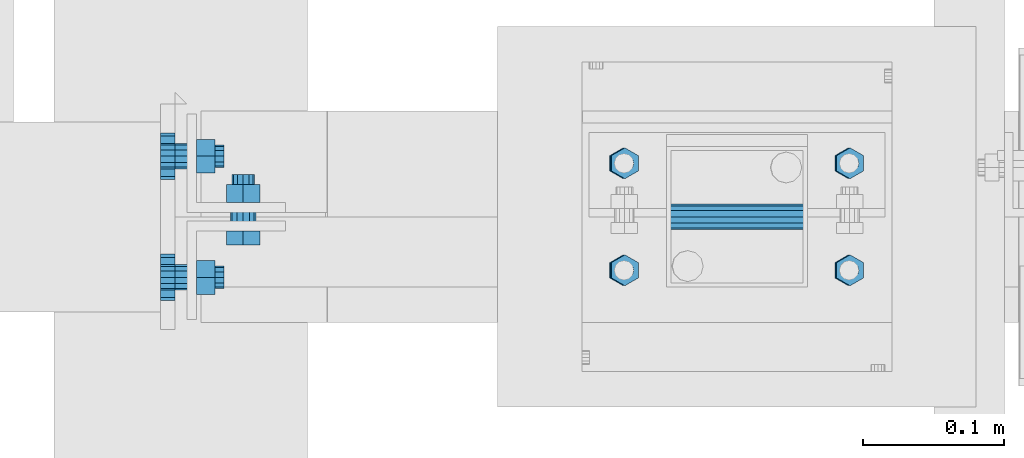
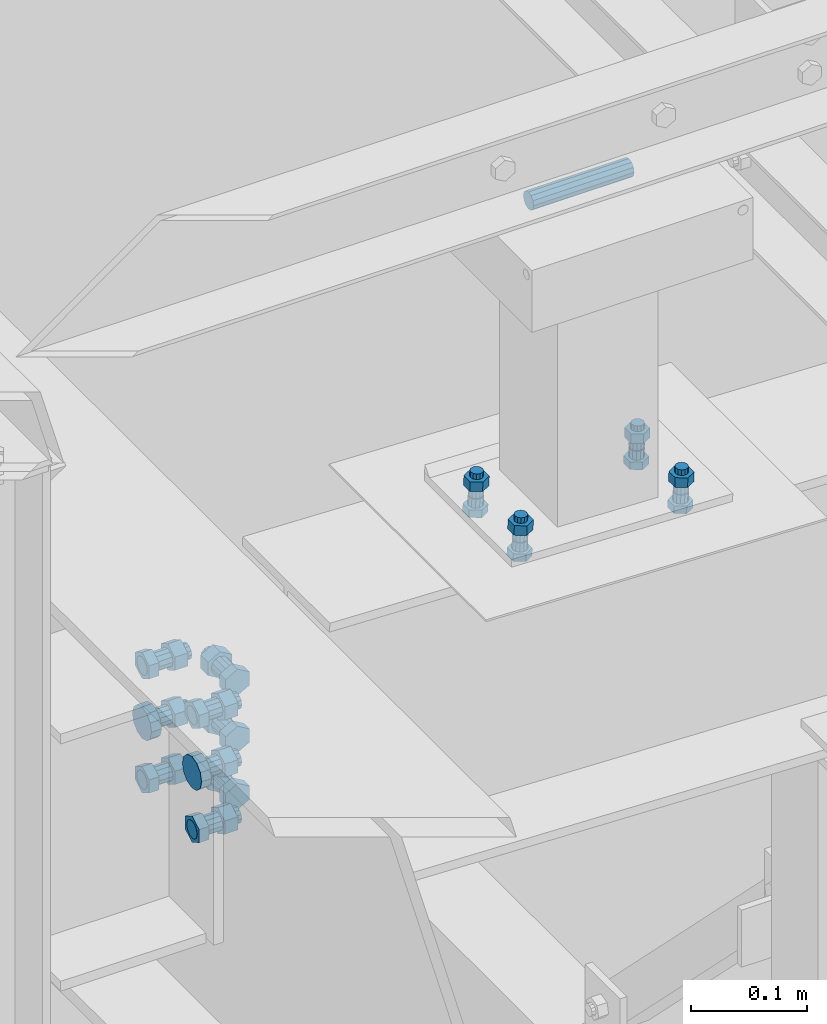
# One storey, part 161 of 3134: 8 mechanical fasteners, 4 elements without a shape of their own.
"""IFC2X3 building model written with IfcOpenShell, lengths in millimetres."""

from ifc_helpers import new_model, si_unit, frame, origin_with_axes, place, context, subcontext, project, spatial, faceted_brep, source, transform, mapped, material, type_object, element, aggregate, save


model = new_model("IFC2X3")

# Units and contexts
model_context = context("Model", 3, precision=1e-05, world=origin_with_axes())
body_context = subcontext(model_context, "Body", "Model", "MODEL_VIEW")
ifc_project = project(units=[si_unit("LENGTHUNIT", "METRE", prefix="MILLI"), si_unit("AREAUNIT", "SQUARE_METRE"), si_unit("VOLUMEUNIT", "CUBIC_METRE"), si_unit("MASSUNIT", "GRAM", prefix="KILO"), si_unit("TIMEUNIT", "SECOND"), si_unit("PLANEANGLEUNIT", "RADIAN"), si_unit("SOLIDANGLEUNIT", "STERADIAN"), si_unit("THERMODYNAMICTEMPERATUREUNIT", "DEGREE_CELSIUS"), si_unit("LUMINOUSINTENSITYUNIT", "LUMEN")], contexts=[model_context])

# Site, building, storey
site_placement = place(None, origin_with_axes())
site = spatial("IfcSite", under=ifc_project, at=site_placement, CompositionType="ELEMENT")
building_placement = place(site_placement, origin_with_axes())
building = spatial("IfcBuilding", under=site, at=building_placement, Name="Undefined", CompositionType="ELEMENT")
storey_placement = place(building_placement, origin_with_axes())
storey = spatial("IfcBuildingStorey", under=building, at=storey_placement, Name="Undefined", CompositionType="ELEMENT", Elevation=0.0)

# Assembly, mechanical fasteners
assembly_1_placement = place(storey_placement, origin_with_axes())
assembly_1 = element("IfcElementAssembly", 1, at=assembly_1_placement, inside=storey, Name="HEA100", AssemblyPlace="NOTDEFINED", PredefinedType="RIGID_FRAME")
ifc_material = material(Name="8.8")
mechanical_fastener_type = type_object("IfcMechanicalFastenerType", Name="Bolt assembly")
shared_shape_1 = source(origin_with_axes(), body_context, "Body", "Brep", [
    faceted_brep([(16.5, 4.3, 0.0), (14.289419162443, 4.3, 8.25000000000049), (8.24999999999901, 4.3, 14.2894191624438), (-1.70995436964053e-12, 4.3, 16.5), (-8.25000000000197, 4.3, 14.2894191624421), (-14.2894191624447, 4.3, 8.24999999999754), (-16.5, 4.3, -3.41990873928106e-12), (-14.2894191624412, 4.3, -8.25000000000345), (-8.24999999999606, 4.3, -14.2894191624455), (5.11154442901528e-12, 4.3, -16.5), (8.25000000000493, 4.3, -14.2894191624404), (14.2894191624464, 4.3, -8.24999999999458), (14.2894191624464, 14.4, -8.24999999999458), (8.25000000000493, 14.4, -14.2894191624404), (5.11154442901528e-12, 14.4, -16.5), (-8.24999999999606, 14.4, -14.2894191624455), (-14.2894191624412, 14.4, -8.25000000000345), (-16.5, 14.4, -3.41990873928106e-12), (-14.2894191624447, 14.4, 8.24999999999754), (-8.25000000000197, 14.4, 14.2894191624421), (-1.70995436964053e-12, 14.4, 16.5), (8.24999999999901, 14.4, 14.2894191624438), (14.289419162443, 14.4, 8.25000000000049), (16.5, 14.4, 0.0)], [[[0, 1, 2, 3, 4, 5, 6, 7, 8, 9, 10, 11]], [[12, 13, 14, 15, 16, 17, 18, 19, 20, 21, 22, 23]], [[0, 23, 22, 1]], [[1, 22, 21, 2]], [[2, 21, 20, 3]], [[3, 20, 19, 4]], [[4, 19, 18, 5]], [[5, 18, 17, 6]], [[6, 17, 16, 7]], [[7, 16, 15, 8]], [[8, 15, 14, 9]], [[9, 14, 13, 10]], [[10, 13, 12, 11]], [[11, 12, 23, 0]]]),
])
mechanical_fastener_1_placement = place(assembly_1_placement, frame((0.0, 32243.75, 3901.86680927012), z_axis=(0.0, 1.0, 0.0), x_axis=(0.0, 0.0, -1.0)))
mechanical_fastener_1 = element("IfcMechanicalFastener", 2, at=mechanical_fastener_1_placement, type_object=mechanical_fastener_type, material=ifc_material, Name="Bolt assembly", NominalDiameter=30.0, NominalLength=10.0, context=body_context, shape_type="MappedRepresentation", body=[
    mapped(shared_shape_1, transform((0.0, 0.0, -43.0400009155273))),
    mapped(shared_shape_1, transform((0.0, 0.0, 43.0400009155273))),
])
shared_shape_2 = source(origin_with_axes(), body_context, "Body", "Brep", [
    faceted_brep([(9.0, 4.3, 0.0), (7.79422863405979, 4.3, 4.50000000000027), (4.49999999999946, 4.3, 7.79422863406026), (-9.3270238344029e-13, 4.3, 9.0), (-4.50000000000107, 4.3, 7.79422863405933), (-7.79422863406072, 4.3, 4.49999999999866), (-9.0, 4.3, -1.86540476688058e-12), (-7.79422863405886, 4.3, -4.50000000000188), (-4.49999999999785, 4.3, -7.79422863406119), (2.78811514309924e-12, 4.3, -9.0), (4.50000000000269, 4.3, -7.7942286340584), (7.79422863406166, 4.3, -4.49999999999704), (7.79422863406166, 14.4, -4.49999999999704), (4.50000000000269, 14.4, -7.7942286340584), (2.78811514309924e-12, 14.4, -9.0), (-4.49999999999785, 14.4, -7.79422863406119), (-7.79422863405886, 14.4, -4.50000000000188), (-9.0, 14.4, -1.86540476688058e-12), (-7.79422863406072, 14.4, 4.49999999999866), (-4.50000000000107, 14.4, 7.79422863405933), (-9.3270238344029e-13, 14.4, 9.0), (4.49999999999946, 14.4, 7.79422863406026), (7.79422863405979, 14.4, 4.50000000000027), (9.0, 14.4, 0.0)], [[[0, 1, 2, 3, 4, 5, 6, 7, 8, 9, 10, 11]], [[12, 13, 14, 15, 16, 17, 18, 19, 20, 21, 22, 23]], [[0, 23, 22, 1]], [[1, 22, 21, 2]], [[2, 21, 20, 3]], [[3, 20, 19, 4]], [[4, 19, 18, 5]], [[5, 18, 17, 6]], [[6, 17, 16, 7]], [[7, 16, 15, 8]], [[8, 15, 14, 9]], [[9, 14, 13, 10]], [[10, 13, 12, 11]], [[11, 12, 23, 0]]]),
])
mechanical_fastener_2_placement = place(assembly_1_placement, frame((0.0, 32286.79, 3961.86727512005), z_axis=(0.0, 1.0, 0.0), x_axis=(0.0, 0.0, -1.0)))
mechanical_fastener_2 = element("IfcMechanicalFastener", 3, at=mechanical_fastener_2_placement, type_object=mechanical_fastener_type, material=ifc_material, Name="Bolt assembly", NominalDiameter=16.0, NominalLength=10.0, context=body_context, shape_type="MappedRepresentation", body=[
    mapped(shared_shape_2, transform((0.0, 0.0, 0.0))),
    mapped(shared_shape_2, transform((120.0, 0.0, 0.0))),
])
mechanical_fastener_3_placement = place(assembly_1_placement, frame((0.0, 32200.71, 3961.86727512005), z_axis=(0.0, 1.0, 0.0), x_axis=(0.0, 0.0, -1.0)))
mechanical_fastener_3 = element("IfcMechanicalFastener", 4, at=mechanical_fastener_3_placement, type_object=mechanical_fastener_type, material=ifc_material, Name="Bolt assembly", NominalDiameter=16.0, NominalLength=10.0, context=body_context, shape_type="MappedRepresentation", body=[
    mapped(shared_shape_2, transform((0.0, 0.0, 0.0))),
    mapped(shared_shape_2, transform((120.0, 0.0, 0.0))),
])
aggregate(assembly_1, [mechanical_fastener_2, mechanical_fastener_3, mechanical_fastener_1])

# Assembly, mechanical fastener
assembly_2_placement = place(storey_placement, origin_with_axes())
assembly_2 = element("IfcElementAssembly", 5, at=assembly_2_placement, inside=storey, AssemblyPlace="NOTDEFINED", PredefinedType="RIGID_FRAME")
shared_shape_3 = source(origin_with_axes(), body_context, "Body", "Brep", [
    faceted_brep([(13.856406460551, -18.5936482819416, 0.0), (6.92820323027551, -18.5936482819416, 12.0), (-6.92820323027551, -18.5936482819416, 12.0), (-13.856406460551, -18.5936482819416, 1.69692038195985e-15), (-6.92820323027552, -18.5936482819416, -12.0), (6.9282032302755, -18.5936482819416, -12.0), (6.9282032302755, -8.59364828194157, -12.0), (-6.92820323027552, -8.59364828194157, -12.0), (-13.856406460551, -8.59364828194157, 1.69692038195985e-15), (-6.92820323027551, -8.59364828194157, 12.0), (6.92820323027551, -8.59364828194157, 12.0), (13.856406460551, -8.59364828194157, 0.0), (8.0, -8.59364828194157, 0.0), (6.92820323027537, -8.59364828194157, 4.00000000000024), (3.99999999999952, -8.59364828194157, 6.92820323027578), (-8.29068785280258e-13, -8.59364828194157, 8.0), (-4.00000000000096, -8.59364828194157, 6.92820323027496), (-6.9282032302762, -8.59364828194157, 3.99999999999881), (-8.0, -8.59364828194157, -1.65813757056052e-12), (-6.92820323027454, -8.59364828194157, -4.00000000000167), (-3.99999999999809, -8.59364828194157, -6.92820323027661), (2.47832457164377e-12, -8.59364828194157, -8.0), (4.00000000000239, -8.59364828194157, -6.92820323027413), (6.92820323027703, -8.59364828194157, -3.99999999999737), (6.92820323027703, 26.4063517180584, -3.99999999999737), (4.00000000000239, 26.4063517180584, -6.92820323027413), (2.47832457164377e-12, 26.4063517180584, -8.0), (-3.99999999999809, 26.4063517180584, -6.92820323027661), (-6.92820323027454, 26.4063517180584, -4.00000000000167), (-8.0, 26.4063517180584, -1.65813757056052e-12), (-6.9282032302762, 26.4063517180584, 3.99999999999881), (-4.00000000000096, 26.4063517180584, 6.92820323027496), (-8.29068785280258e-13, 26.4063517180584, 8.0), (3.99999999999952, 26.4063517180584, 6.92820323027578), (6.92820323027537, 26.4063517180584, 4.00000000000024), (8.0, 26.4063517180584, 0.0), (13.856406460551, 7.0, 0.0), (6.92820323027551, 7.0, 12.0), (-6.92820323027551, 7.0, 12.0), (-13.856406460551, 7.0, 1.69692038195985e-15), (-6.92820323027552, 7.0, -12.0), (6.9282032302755, 7.0, -12.0), (6.9282032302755, 20.0, -12.0), (-6.92820323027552, 20.0, -12.0), (-13.856406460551, 20.0, 1.69692038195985e-15), (-6.92820323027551, 20.0, 12.0), (6.92820323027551, 20.0, 12.0), (13.856406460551, 20.0, 0.0)], [[[0, 1, 2, 3, 4, 5]], [[6, 7, 8, 9, 10, 11]], [[0, 11, 10, 1]], [[1, 10, 9, 2]], [[2, 9, 8, 3]], [[3, 8, 7, 4]], [[4, 7, 6, 5]], [[5, 6, 11, 0]], [[12, 13, 14, 15, 16, 17, 18, 19, 20, 21, 22, 23]], [[24, 25, 26, 27, 28, 29, 30, 31, 32, 33, 34, 35]], [[12, 35, 34, 13]], [[13, 34, 33, 14]], [[14, 33, 32, 15]], [[15, 32, 31, 16]], [[16, 31, 30, 17]], [[17, 30, 29, 18]], [[18, 29, 28, 19]], [[19, 28, 27, 20]], [[20, 27, 26, 21]], [[21, 26, 25, 22]], [[22, 25, 24, 23]], [[23, 24, 35, 12]], [[36, 37, 38, 39, 40, 41]], [[42, 43, 44, 45, 46, 47]], [[36, 47, 46, 37]], [[37, 46, 45, 38]], [[38, 45, 44, 39]], [[39, 44, 43, 40]], [[40, 43, 42, 41]], [[41, 42, 47, 36]]]),
    faceted_brep([(9.0, -8.49364828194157, 0.0), (7.79422863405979, -8.49364828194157, 4.50000000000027), (4.49999999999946, -8.49364828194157, 7.79422863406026), (-9.3270238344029e-13, -8.49364828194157, 9.0), (-4.50000000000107, -8.49364828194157, 7.79422863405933), (-7.79422863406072, -8.49364828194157, 4.49999999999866), (-9.0, -8.49364828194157, -1.86540476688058e-12), (-7.79422863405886, -8.49364828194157, -4.50000000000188), (-4.49999999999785, -8.49364828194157, -7.79422863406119), (2.78811514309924e-12, -8.49364828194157, -9.0), (4.50000000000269, -8.49364828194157, -7.7942286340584), (7.79422863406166, -8.49364828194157, -4.49999999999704), (7.79422863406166, 0.10635209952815, -4.49999999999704), (4.50000000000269, 0.10635209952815, -7.7942286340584), (2.78811514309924e-12, 0.10635209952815, -9.0), (-4.49999999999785, 0.10635209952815, -7.79422863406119), (-7.79422863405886, 0.10635209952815, -4.50000000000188), (-9.0, 0.10635209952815, -1.86540476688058e-12), (-7.79422863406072, 0.10635209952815, 4.49999999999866), (-4.50000000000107, 0.10635209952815, 7.79422863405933), (-9.3270238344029e-13, 0.10635209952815, 9.0), (4.49999999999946, 0.10635209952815, 7.79422863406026), (7.79422863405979, 0.10635209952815, 4.50000000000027), (9.0, 0.10635209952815, 0.0), (9.0, -0.1, 0.0), (7.79422863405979, -0.1, 4.50000000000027), (4.49999999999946, -0.1, 7.79422863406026), (-9.3270238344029e-13, -0.1, 9.0), (-4.50000000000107, -0.1, 7.79422863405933), (-7.79422863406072, -0.1, 4.49999999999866), (-9.0, -0.1, -1.86540476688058e-12), (-7.79422863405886, -0.1, -4.50000000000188), (-4.49999999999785, -0.1, -7.79422863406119), (2.78811514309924e-12, -0.1, -9.0), (4.50000000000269, -0.1, -7.7942286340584), (7.79422863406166, -0.1, -4.49999999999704), (7.79422863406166, 7.0, -4.49999999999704), (4.50000000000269, 7.0, -7.7942286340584), (2.78811514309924e-12, 7.0, -9.0), (-4.49999999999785, 7.0, -7.79422863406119), (-7.79422863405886, 7.0, -4.50000000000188), (-9.0, 7.0, -1.86540476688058e-12), (-7.79422863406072, 7.0, 4.49999999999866), (-4.50000000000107, 7.0, 7.79422863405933), (-9.3270238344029e-13, 7.0, 9.0), (4.49999999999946, 7.0, 7.79422863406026), (7.79422863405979, 7.0, 4.50000000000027), (9.0, 7.0, 0.0)], [[[0, 1, 2, 3, 4, 5, 6, 7, 8, 9, 10, 11]], [[12, 13, 14, 15, 16, 17, 18, 19, 20, 21, 22, 23]], [[0, 23, 22, 1]], [[1, 22, 21, 2]], [[2, 21, 20, 3]], [[3, 20, 19, 4]], [[4, 19, 18, 5]], [[5, 18, 17, 6]], [[6, 17, 16, 7]], [[7, 16, 15, 8]], [[8, 15, 14, 9]], [[9, 14, 13, 10]], [[10, 13, 12, 11]], [[11, 12, 23, 0]], [[24, 25, 26, 27, 28, 29, 30, 31, 32, 33, 34, 35]], [[36, 37, 38, 39, 40, 41, 42, 43, 44, 45, 46, 47]], [[24, 47, 46, 25]], [[25, 46, 45, 26]], [[26, 45, 44, 27]], [[27, 44, 43, 28]], [[28, 43, 42, 29]], [[29, 42, 41, 30]], [[30, 41, 40, 31]], [[31, 40, 39, 32]], [[32, 39, 38, 33]], [[33, 38, 37, 34]], [[34, 37, 36, 35]], [[35, 36, 47, 24]]]),
])
mechanical_fastener_4_placement = place(assembly_2_placement, frame((4.29364809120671, 32200.71, 3841.86727512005), z_axis=(0.0, 1.0, 0.0), x_axis=(0.0, 0.0, 1.0)))
mechanical_fastener_4 = element("IfcMechanicalFastener", 6, at=mechanical_fastener_4_placement, type_object=mechanical_fastener_type, material=ifc_material, Name="Bolt assembly", NominalDiameter=16.0, NominalLength=35.0, context=body_context, shape_type="MappedRepresentation", body=[
    mapped(shared_shape_3, transform((0.0, 0.0, 0.0))),
    mapped(shared_shape_3, transform((59.9999999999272, 0.0, 5.40239852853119e-10))),
    mapped(shared_shape_3, transform((120.0, 0.0, 0.0))),
])

assembly_3_placement = place(storey_placement, origin_with_axes())
assembly_3 = element("IfcElementAssembly", 7, at=assembly_3_placement, inside=storey, AssemblyPlace="NOTDEFINED", PredefinedType="RIGID_FRAME")
mechanical_fastener_5_placement = place(assembly_3_placement, frame((4.29364809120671, 32286.79, 3841.86727512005), z_axis=(0.0, 1.0, 0.0), x_axis=(0.0, 0.0, 1.0)))
mechanical_fastener_5 = element("IfcMechanicalFastener", 8, at=mechanical_fastener_5_placement, type_object=mechanical_fastener_type, material=ifc_material, Name="Bolt assembly", NominalDiameter=16.0, NominalLength=35.0, context=body_context, shape_type="MappedRepresentation", body=[
    mapped(shared_shape_3, transform((0.0, 0.0, 0.0))),
    mapped(shared_shape_3, transform((59.9999999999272, 0.0, 5.40239852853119e-10))),
    mapped(shared_shape_3, transform((120.0, 0.0, 0.0))),
])
aggregate(assembly_3, [mechanical_fastener_5])

# Mechanical fastener
shared_shape_4 = source(origin_with_axes(), body_context, "Body", "Brep", [
    faceted_brep([(13.856406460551, -20.0400000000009, 0.0), (6.92820323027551, -20.0400000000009, 12.0), (-6.92820323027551, -20.0400000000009, 12.0), (-13.856406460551, -20.0400000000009, 1.69692038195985e-15), (-6.92820323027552, -20.0400000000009, -12.0), (6.9282032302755, -20.0400000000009, -12.0), (6.9282032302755, -10.0400000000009, -12.0), (-6.92820323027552, -10.0400000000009, -12.0), (-13.856406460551, -10.0400000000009, 1.69692038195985e-15), (-6.92820323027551, -10.0400000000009, 12.0), (6.92820323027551, -10.0400000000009, 12.0), (13.856406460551, -10.0400000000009, 0.0), (8.0, -10.0400000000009, 0.0), (6.92820323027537, -10.0400000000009, 4.00000000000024), (3.99999999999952, -10.0400000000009, 6.92820323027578), (-8.29068785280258e-13, -10.0400000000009, 8.0), (-4.00000000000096, -10.0400000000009, 6.92820323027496), (-6.9282032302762, -10.0400000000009, 3.99999999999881), (-8.0, -10.0400000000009, -1.65813757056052e-12), (-6.92820323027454, -10.0400000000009, -4.00000000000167), (-3.99999999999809, -10.0400000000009, -6.92820323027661), (2.47832457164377e-12, -10.0400000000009, -8.0), (4.00000000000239, -10.0400000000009, -6.92820323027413), (6.92820323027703, -10.0400000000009, -3.99999999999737), (6.92820323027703, 29.9599999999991, -3.99999999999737), (4.00000000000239, 29.9599999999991, -6.92820323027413), (2.47832457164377e-12, 29.9599999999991, -8.0), (-3.99999999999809, 29.9599999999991, -6.92820323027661), (-6.92820323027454, 29.9599999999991, -4.00000000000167), (-8.0, 29.9599999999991, -1.65813757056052e-12), (-6.9282032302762, 29.9599999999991, 3.99999999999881), (-4.00000000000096, 29.9599999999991, 6.92820323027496), (-8.29068785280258e-13, 29.9599999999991, 8.0), (3.99999999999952, 29.9599999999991, 6.92820323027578), (6.92820323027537, 29.9599999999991, 4.00000000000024), (8.0, 29.9599999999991, 0.0), (13.856406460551, 10.0400000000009, 0.0), (6.92820323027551, 10.0400000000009, 12.0), (-6.92820323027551, 10.0400000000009, 12.0), (-13.856406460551, 10.0400000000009, 1.69692038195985e-15), (-6.92820323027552, 10.0400000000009, -12.0), (6.9282032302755, 10.0400000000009, -12.0), (6.9282032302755, 23.0400000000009, -12.0), (-6.92820323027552, 23.0400000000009, -12.0), (-13.856406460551, 23.0400000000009, 1.69692038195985e-15), (-6.92820323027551, 23.0400000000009, 12.0), (6.92820323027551, 23.0400000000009, 12.0), (13.856406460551, 23.0400000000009, 0.0)], [[[0, 1, 2, 3, 4, 5]], [[6, 7, 8, 9, 10, 11]], [[0, 11, 10, 1]], [[1, 10, 9, 2]], [[2, 9, 8, 3]], [[3, 8, 7, 4]], [[4, 7, 6, 5]], [[5, 6, 11, 0]], [[12, 13, 14, 15, 16, 17, 18, 19, 20, 21, 22, 23]], [[24, 25, 26, 27, 28, 29, 30, 31, 32, 33, 34, 35]], [[12, 35, 34, 13]], [[13, 34, 33, 14]], [[14, 33, 32, 15]], [[15, 32, 31, 16]], [[16, 31, 30, 17]], [[17, 30, 29, 18]], [[18, 29, 28, 19]], [[19, 28, 27, 20]], [[20, 27, 26, 21]], [[21, 26, 25, 22]], [[22, 25, 24, 23]], [[23, 24, 35, 12]], [[36, 37, 38, 39, 40, 41]], [[42, 43, 44, 45, 46, 47]], [[36, 47, 46, 37]], [[37, 46, 45, 38]], [[38, 45, 44, 39]], [[39, 44, 43, 40]], [[40, 43, 42, 41]], [[41, 42, 47, 36]]]),
    faceted_brep([(9.0, -3.04999995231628, 0.0), (7.79422863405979, -3.04999995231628, 4.50000000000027), (4.49999999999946, -3.04999995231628, 7.79422863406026), (-9.3270238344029e-13, -3.04999995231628, 9.0), (-4.50000000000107, -3.04999995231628, 7.79422863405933), (-7.79422863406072, -3.04999995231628, 4.49999999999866), (-9.0, -3.04999995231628, -1.86540476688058e-12), (-7.79422863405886, -3.04999995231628, -4.50000000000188), (-4.49999999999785, -3.04999995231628, -7.79422863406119), (2.78811514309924e-12, -3.04999995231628, -9.0), (4.50000000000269, -3.04999995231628, -7.7942286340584), (7.79422863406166, -3.04999995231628, -4.49999999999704), (7.79422863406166, 3.04999995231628, -4.49999999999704), (4.50000000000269, 3.04999995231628, -7.7942286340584), (2.78811514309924e-12, 3.04999995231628, -9.0), (-4.49999999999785, 3.04999995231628, -7.79422863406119), (-7.79422863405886, 3.04999995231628, -4.50000000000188), (-9.0, 3.04999995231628, -1.86540476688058e-12), (-7.79422863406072, 3.04999995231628, 4.49999999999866), (-4.50000000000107, 3.04999995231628, 7.79422863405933), (-9.3270238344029e-13, 3.04999995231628, 9.0), (4.49999999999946, 3.04999995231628, 7.79422863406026), (7.79422863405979, 3.04999995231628, 4.50000000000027), (9.0, 3.04999995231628, 0.0), (9.0, -9.94000000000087, 0.0), (7.79422863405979, -9.94000000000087, 4.50000000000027), (4.49999999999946, -9.94000000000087, 7.79422863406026), (-9.3270238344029e-13, -9.94000000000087, 9.0), (-4.50000000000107, -9.94000000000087, 7.79422863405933), (-7.79422863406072, -9.94000000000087, 4.49999999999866), (-9.0, -9.94000000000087, -1.86540476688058e-12), (-7.79422863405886, -9.94000000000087, -4.50000000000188), (-4.49999999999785, -9.94000000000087, -7.79422863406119), (2.78811514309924e-12, -9.94000000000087, -9.0), (4.50000000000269, -9.94000000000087, -7.7942286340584), (7.79422863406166, -9.94000000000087, -4.49999999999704), (7.79422863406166, -2.94000000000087, -4.49999999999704), (4.50000000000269, -2.94000000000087, -7.7942286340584), (2.78811514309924e-12, -2.94000000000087, -9.0), (-4.49999999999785, -2.94000000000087, -7.79422863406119), (-7.79422863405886, -2.94000000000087, -4.50000000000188), (-9.0, -2.94000000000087, -1.86540476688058e-12), (-7.79422863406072, -2.94000000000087, 4.49999999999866), (-4.50000000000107, -2.94000000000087, 7.79422863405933), (-9.3270238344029e-13, -2.94000000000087, 9.0), (4.49999999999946, -2.94000000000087, 7.79422863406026), (7.79422863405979, -2.94000000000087, 4.50000000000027), (9.0, -2.94000000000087, 0.0), (9.0, 2.94000000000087, 0.0), (7.79422863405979, 2.94000000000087, 4.50000000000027), (4.49999999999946, 2.94000000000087, 7.79422863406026), (-9.3270238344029e-13, 2.94000000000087, 9.0), (-4.50000000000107, 2.94000000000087, 7.79422863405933), (-7.79422863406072, 2.94000000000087, 4.49999999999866), (-9.0, 2.94000000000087, -1.86540476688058e-12), (-7.79422863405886, 2.94000000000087, -4.50000000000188), (-4.49999999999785, 2.94000000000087, -7.79422863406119), (2.78811514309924e-12, 2.94000000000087, -9.0), (4.50000000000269, 2.94000000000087, -7.7942286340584), (7.79422863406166, 2.94000000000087, -4.49999999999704), (7.79422863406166, 10.0400000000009, -4.49999999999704), (4.50000000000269, 10.0400000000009, -7.7942286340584), (2.78811514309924e-12, 10.0400000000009, -9.0), (-4.49999999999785, 10.0400000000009, -7.79422863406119), (-7.79422863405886, 10.0400000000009, -4.50000000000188), (-9.0, 10.0400000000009, -1.86540476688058e-12), (-7.79422863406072, 10.0400000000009, 4.49999999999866), (-4.50000000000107, 10.0400000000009, 7.79422863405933), (-9.3270238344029e-13, 10.0400000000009, 9.0), (4.49999999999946, 10.0400000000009, 7.79422863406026), (7.79422863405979, 10.0400000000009, 4.50000000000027), (9.0, 10.0400000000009, 0.0)], [[[0, 1, 2, 3, 4, 5, 6, 7, 8, 9, 10, 11]], [[12, 13, 14, 15, 16, 17, 18, 19, 20, 21, 22, 23]], [[0, 23, 22, 1]], [[1, 22, 21, 2]], [[2, 21, 20, 3]], [[3, 20, 19, 4]], [[4, 19, 18, 5]], [[5, 18, 17, 6]], [[6, 17, 16, 7]], [[7, 16, 15, 8]], [[8, 15, 14, 9]], [[9, 14, 13, 10]], [[10, 13, 12, 11]], [[11, 12, 23, 0]], [[24, 25, 26, 27, 28, 29, 30, 31, 32, 33, 34, 35]], [[36, 37, 38, 39, 40, 41, 42, 43, 44, 45, 46, 47]], [[24, 47, 46, 25]], [[25, 46, 45, 26]], [[26, 45, 44, 27]], [[27, 44, 43, 28]], [[28, 43, 42, 29]], [[29, 42, 41, 30]], [[30, 41, 40, 31]], [[31, 40, 39, 32]], [[32, 39, 38, 33]], [[33, 38, 37, 34]], [[34, 37, 36, 35]], [[35, 36, 47, 24]], [[48, 49, 50, 51, 52, 53, 54, 55, 56, 57, 58, 59]], [[60, 61, 62, 63, 64, 65, 66, 67, 68, 69, 70, 71]], [[48, 71, 70, 49]], [[49, 70, 69, 50]], [[50, 69, 68, 51]], [[51, 68, 67, 52]], [[52, 67, 66, 53]], [[53, 66, 65, 54]], [[54, 65, 64, 55]], [[55, 64, 63, 56]], [[56, 63, 62, 57]], [[57, 62, 61, 58]], [[58, 61, 60, 59]], [[59, 60, 71, 48]]]),
])
mechanical_fastener_6_placement = place(assembly_2_placement, frame((44.2936480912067, 32243.75, 3841.86727512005), z_axis=(-1.0, 0.0, 0.0), x_axis=(0.0, 0.0, 1.0)))
mechanical_fastener_6 = element("IfcMechanicalFastener", 9, at=mechanical_fastener_6_placement, type_object=mechanical_fastener_type, material=ifc_material, Name="Bolt assembly", NominalDiameter=16.0, NominalLength=40.0, context=body_context, shape_type="MappedRepresentation", body=[
    mapped(shared_shape_4, transform((0.0, 0.0, 0.0))),
    mapped(shared_shape_4, transform((59.9999999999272, 0.0, 5.40239852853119e-10))),
    mapped(shared_shape_4, transform((120.0, 0.0, 0.0))),
])

aggregate(assembly_2, [mechanical_fastener_4, mechanical_fastener_6])

# Assembly, mechanical fasteners
assembly_4_placement = place(storey_placement, origin_with_axes())
assembly_4 = element("IfcElementAssembly", 10, at=assembly_4_placement, inside=storey, AssemblyPlace="NOTDEFINED", PredefinedType="RIGID_FRAME")
shared_shape_5 = source(origin_with_axes(), body_context, "Body", "Brep", [
    faceted_brep([(10.9696551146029, -4.19432770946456, 0.0), (5.48482755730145, -4.19432770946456, 9.5), (-5.48482755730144, -4.19432770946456, 9.5), (-10.9696551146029, -4.19432770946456, 1.34339530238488e-15), (-5.48482755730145, -4.19432770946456, -9.5), (5.48482755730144, -4.19432770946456, -9.50000000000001), (5.48482755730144, 3.80567229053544, -9.50000000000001), (-5.48482755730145, 3.80567229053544, -9.5), (-10.9696551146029, 3.80567229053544, 1.34339530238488e-15), (-5.48482755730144, 3.80567229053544, 9.5), (5.48482755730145, 3.80567229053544, 9.5), (10.9696551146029, 3.80567229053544, 0.0), (6.0, 3.80567229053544, 0.0), (5.19615242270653, 3.80567229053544, 3.00000000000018), (2.99999999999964, 3.80567229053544, 5.19615242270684), (-6.21801588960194e-13, 3.80567229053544, 6.0), (-3.00000000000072, 3.80567229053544, 5.19615242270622), (-5.19615242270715, 3.80567229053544, 2.9999999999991), (-6.0, 3.80567229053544, -1.24360317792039e-12), (-5.19615242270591, 3.80567229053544, -3.00000000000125), (-2.99999999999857, 3.80567229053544, -5.19615242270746), (1.85874342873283e-12, 3.80567229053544, -6.0), (3.00000000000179, 3.80567229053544, -5.1961524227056), (5.19615242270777, 3.80567229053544, -2.99999999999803), (5.19615242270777, 38.8056722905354, -2.99999999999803), (3.00000000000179, 38.8056722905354, -5.1961524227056), (1.85874342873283e-12, 38.8056722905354, -6.0), (-2.99999999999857, 38.8056722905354, -5.19615242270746), (-5.19615242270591, 38.8056722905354, -3.00000000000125), (-6.0, 38.8056722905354, -1.24360317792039e-12), (-5.19615242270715, 38.8056722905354, 2.9999999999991), (-3.00000000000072, 38.8056722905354, 5.19615242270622), (-6.21801588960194e-13, 38.8056722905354, 6.0), (2.99999999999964, 38.8056722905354, 5.19615242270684), (5.19615242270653, 38.8056722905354, 3.00000000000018), (6.0, 38.8056722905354, 0.0), (10.9696551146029, 23.0139082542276, 0.0), (5.48482755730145, 23.0139082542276, 9.5), (-5.48482755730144, 23.0139082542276, 9.5), (-10.9696551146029, 23.0139082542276, 1.34339530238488e-15), (-5.48482755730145, 23.0139082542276, -9.5), (5.48482755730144, 23.0139082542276, -9.50000000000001), (5.48482755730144, 33.0139082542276, -9.50000000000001), (-5.48482755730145, 33.0139082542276, -9.5), (-10.9696551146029, 33.0139082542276, 1.34339530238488e-15), (-5.48482755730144, 33.0139082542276, 9.5), (5.48482755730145, 33.0139082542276, 9.5), (10.9696551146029, 33.0139082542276, 0.0)], [[[0, 1, 2, 3, 4, 5]], [[6, 7, 8, 9, 10, 11]], [[0, 11, 10, 1]], [[1, 10, 9, 2]], [[2, 9, 8, 3]], [[3, 8, 7, 4]], [[4, 7, 6, 5]], [[5, 6, 11, 0]], [[12, 13, 14, 15, 16, 17, 18, 19, 20, 21, 22, 23]], [[24, 25, 26, 27, 28, 29, 30, 31, 32, 33, 34, 35]], [[12, 35, 34, 13]], [[13, 34, 33, 14]], [[14, 33, 32, 15]], [[15, 32, 31, 16]], [[16, 31, 30, 17]], [[17, 30, 29, 18]], [[18, 29, 28, 19]], [[19, 28, 27, 20]], [[20, 27, 26, 21]], [[21, 26, 25, 22]], [[22, 25, 24, 23]], [[23, 24, 35, 12]], [[36, 37, 38, 39, 40, 41]], [[42, 43, 44, 45, 46, 47]], [[36, 47, 46, 37]], [[37, 46, 45, 38]], [[38, 45, 44, 39]], [[39, 44, 43, 40]], [[40, 43, 42, 41]], [[41, 42, 47, 36]]]),
    faceted_brep([(7.0, 3.90567229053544, 0.0), (6.06217782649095, 3.90567229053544, 3.50000000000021), (3.49999999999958, 3.90567229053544, 6.06217782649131), (-7.25435187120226e-13, 3.90567229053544, 7.0), (-3.50000000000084, 3.90567229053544, 6.06217782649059), (-6.06217782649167, 3.90567229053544, 3.49999999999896), (-7.0, 3.90567229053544, -1.45087037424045e-12), (-6.06217782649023, 3.90567229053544, -3.50000000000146), (-3.49999999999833, 3.90567229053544, -6.06217782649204), (2.1685340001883e-12, 3.90567229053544, -7.0), (3.50000000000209, 3.90567229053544, -6.06217782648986), (6.0621778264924, 3.90567229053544, -3.4999999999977), (6.0621778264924, 13.1056721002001, -3.4999999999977), (3.50000000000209, 13.1056721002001, -6.06217782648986), (2.1685340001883e-12, 13.1056721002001, -7.0), (-3.49999999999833, 13.1056721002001, -6.06217782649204), (-6.06217782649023, 13.1056721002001, -3.50000000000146), (-7.0, 13.1056721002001, -1.45087037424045e-12), (-6.06217782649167, 13.1056721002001, 3.49999999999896), (-3.50000000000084, 13.1056721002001, 6.06217782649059), (-7.25435187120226e-13, 13.1056721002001, 7.0), (3.49999999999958, 13.1056721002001, 6.06217782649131), (6.06217782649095, 13.1056721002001, 3.50000000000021), (7.0, 13.1056721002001, 0.0), (7.0, 14.9139082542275, 0.0), (6.06217782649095, 14.9139082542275, 3.50000000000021), (3.49999999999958, 14.9139082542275, 6.06217782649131), (-7.25435187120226e-13, 14.9139082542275, 7.0), (-3.50000000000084, 14.9139082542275, 6.06217782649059), (-6.06217782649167, 14.9139082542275, 3.49999999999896), (-7.0, 14.9139082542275, -1.45087037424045e-12), (-6.06217782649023, 14.9139082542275, -3.50000000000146), (-3.49999999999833, 14.9139082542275, -6.06217782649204), (2.1685340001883e-12, 14.9139082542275, -7.0), (3.50000000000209, 14.9139082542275, -6.06217782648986), (6.0621778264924, 14.9139082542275, -3.4999999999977), (6.0621778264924, 23.0139082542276, -3.4999999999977), (3.50000000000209, 23.0139082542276, -6.06217782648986), (2.1685340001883e-12, 23.0139082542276, -7.0), (-3.49999999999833, 23.0139082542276, -6.06217782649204), (-6.06217782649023, 23.0139082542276, -3.50000000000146), (-7.0, 23.0139082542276, -1.45087037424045e-12), (-6.06217782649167, 23.0139082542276, 3.49999999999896), (-3.50000000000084, 23.0139082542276, 6.06217782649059), (-7.25435187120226e-13, 23.0139082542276, 7.0), (3.49999999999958, 23.0139082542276, 6.06217782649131), (6.06217782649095, 23.0139082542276, 3.50000000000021), (7.0, 23.0139082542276, 0.0)], [[[0, 1, 2, 3, 4, 5, 6, 7, 8, 9, 10, 11]], [[12, 13, 14, 15, 16, 17, 18, 19, 20, 21, 22, 23]], [[0, 23, 22, 1]], [[1, 22, 21, 2]], [[2, 21, 20, 3]], [[3, 20, 19, 4]], [[4, 19, 18, 5]], [[5, 18, 17, 6]], [[6, 17, 16, 7]], [[7, 16, 15, 8]], [[8, 15, 14, 9]], [[9, 14, 13, 10]], [[10, 13, 12, 11]], [[11, 12, 23, 0]], [[24, 25, 26, 27, 28, 29, 30, 31, 32, 33, 34, 35]], [[36, 37, 38, 39, 40, 41, 42, 43, 44, 45, 46, 47]], [[24, 47, 46, 25]], [[25, 46, 45, 26]], [[26, 45, 44, 27]], [[27, 44, 43, 28]], [[28, 43, 42, 29]], [[29, 42, 41, 30]], [[30, 41, 40, 31]], [[31, 40, 39, 32]], [[32, 39, 38, 33]], [[33, 38, 37, 34]], [[34, 37, 36, 35]], [[35, 36, 47, 24]]]),
])
mechanical_fastener_7_placement = place(assembly_4_placement, frame((394.193176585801, 32281.7499999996, 4013.19000668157), z_axis=(-0.999387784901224, 0.0, 0.0349865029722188), x_axis=(0.0, -1.0, 0.0)))
mechanical_fastener_7 = element("IfcMechanicalFastener", 11, at=mechanical_fastener_7_placement, type_object=mechanical_fastener_type, material=ifc_material, Name="Bolt assembly", NominalDiameter=12.0, NominalLength=35.0, context=body_context, shape_type="MappedRepresentation", body=[
    mapped(shared_shape_5, transform((0.0, -5.32963895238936e-10, -79.9999999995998))),
    mapped(shared_shape_5, transform((76.0, -5.32963895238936e-10, -79.9999999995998))),
    mapped(shared_shape_5, transform((0.0, 5.3114490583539e-10, 79.9999999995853))),
    mapped(shared_shape_5, transform((76.0, 5.3114490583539e-10, 79.9999999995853))),
])
shared_shape_6 = source(origin_with_axes(), body_context, "Body", "Brep", [
    faceted_brep([(9.0, -50.0, 0.0), (7.79422863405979, -50.0, 4.50000000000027), (4.49999999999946, -50.0, 7.79422863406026), (-9.3270238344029e-13, -50.0, 9.0), (-4.50000000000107, -50.0, 7.79422863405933), (-7.79422863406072, -50.0, 4.49999999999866), (-9.0, -50.0, -1.86540476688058e-12), (-7.79422863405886, -50.0, -4.50000000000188), (-4.49999999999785, -50.0, -7.79422863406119), (2.78811514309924e-12, -50.0, -9.0), (4.50000000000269, -50.0, -7.7942286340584), (7.79422863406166, -50.0, -4.49999999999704), (7.79422863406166, 50.1, -4.49999999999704), (4.50000000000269, 50.1, -7.7942286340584), (2.78811514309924e-12, 50.1, -9.0), (-4.49999999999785, 50.1, -7.79422863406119), (-7.79422863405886, 50.1, -4.50000000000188), (-9.0, 50.1, -1.86540476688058e-12), (-7.79422863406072, 50.1, 4.49999999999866), (-4.50000000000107, 50.1, 7.79422863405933), (-9.3270238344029e-13, 50.1, 9.0), (4.49999999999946, 50.1, 7.79422863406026), (7.79422863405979, 50.1, 4.50000000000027), (9.0, 50.1, 0.0)], [[[0, 1, 2, 3, 4, 5, 6, 7, 8, 9, 10, 11]], [[12, 13, 14, 15, 16, 17, 18, 19, 20, 21, 22, 23]], [[0, 23, 22, 1]], [[1, 22, 21, 2]], [[2, 21, 20, 3]], [[3, 20, 19, 4]], [[4, 19, 18, 5]], [[5, 18, 17, 6]], [[6, 17, 16, 7]], [[7, 16, 15, 8]], [[8, 15, 14, 9]], [[9, 14, 13, 10]], [[10, 13, 12, 11]], [[11, 12, 23, 0]]]),
])
mechanical_fastener_8_placement = place(assembly_4_placement, frame((395.0, 32243.75, 4351.0), z_axis=(0.0, 1.0, 0.0), x_axis=(0.0, 0.0, 1.0)))
mechanical_fastener_8 = element("IfcMechanicalFastener", 12, at=mechanical_fastener_8_placement, type_object=mechanical_fastener_type, material=ifc_material, Name="Bolt assembly", NominalDiameter=16.0, NominalLength=100.0, context=body_context, shape_type="MappedRepresentation", body=[
    mapped(shared_shape_6, transform((0.0, 0.0, 0.0))),
])
aggregate(assembly_4, [mechanical_fastener_8, mechanical_fastener_7])

save(model, "model.ifc")
